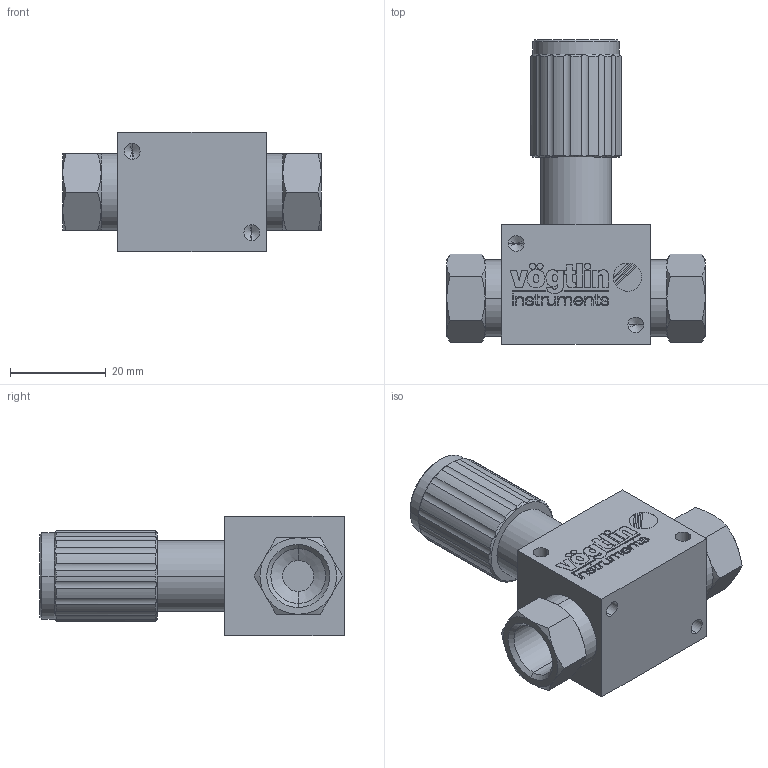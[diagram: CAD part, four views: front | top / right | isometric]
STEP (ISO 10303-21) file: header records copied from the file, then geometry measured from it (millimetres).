
FILE_DESCRIPTION (( 'STEP AP214' ), '1' );
FILE_NAME ('M-Flow 25.step', '2011-08-08T11:10:13', ( '' ), ( '' ), 'SwSTEP 2.0', 'SolidWorks 2011', '' );
FILE_SCHEMA (( 'AUTOMOTIVE_DESIGN' ));
Length unit declared in the file: millimetre
Products named in the file (1): M-Flow 25
Bounding box: 54 x 63.6 x 25 mm (x, y, z)
Volume: 30850.9 mm3; surface area: 9228.7 mm2
Topology: 1 solids, 1 shells, 440 faces, 1140 edges, 732 vertices
Faces by surface type: plane 210, bspline 111, cylinder 65, cone 54
Entity records: 19046 total; most frequent: CARTESIAN_POINT 4324, ORIENTED_EDGE 2248, DIRECTION 1612, EDGE_CURVE 1124, VERTEX_POINT 732, LINE 692, VECTOR 692, EDGE_LOOP 486
